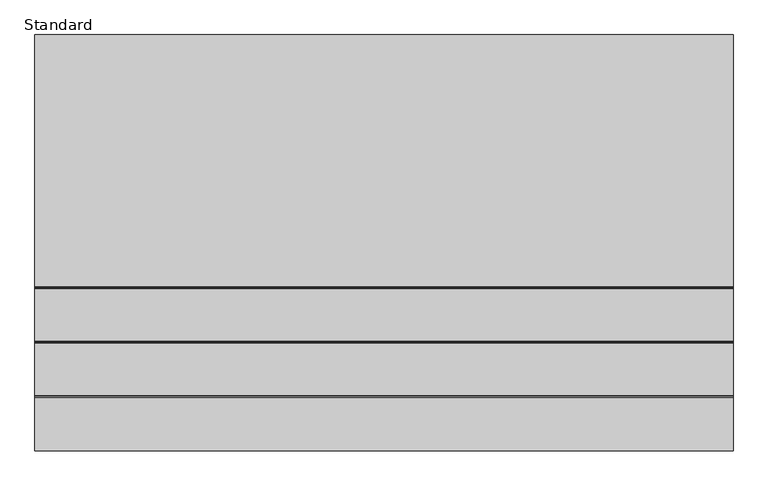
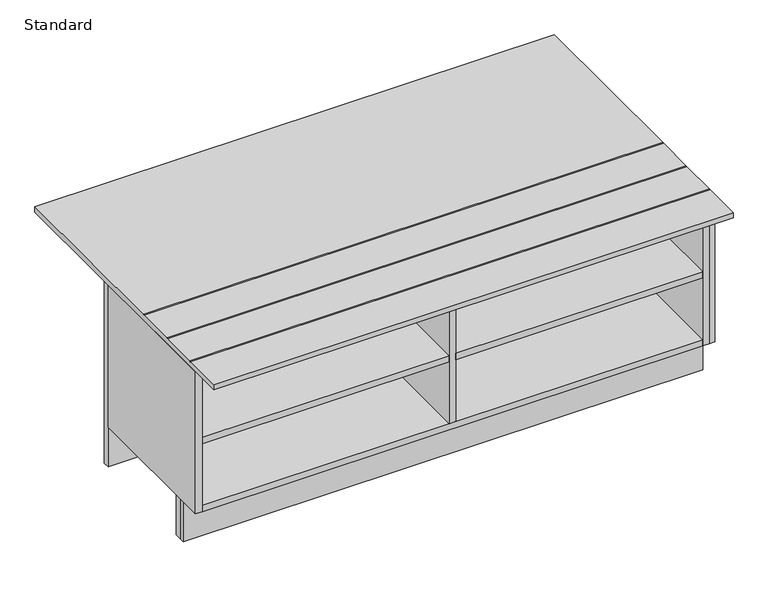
"""IFC4 building model written with IfcOpenShell, lengths in millimetres: furniture geometry, X_Locker-Duracube-Player Shoe Box : Standard."""

import ifcopenshell
import ifcopenshell.guid

model = None  # the IFC model being written
_history = None  # IfcOwnerHistory: only IFC2X3 demands one
_inside = {}  # id of a spatial element -> (the spatial element, [elements in it])
_under = {}  # id of a project, library or spatial element -> (it, [spatial elements below it])
_declared = {}  # id of a project -> (the project, [libraries it declares])
_typed = {}  # id of a type object -> (the type object, [elements of that type])
_made_of = {}  # id of a material, layer set ... -> (it, [elements and type objects made of it])


def new_model(schema):
    """Start an empty IFC model of exactly this schema.

    Asked for "IFC4X3", IfcOpenShell would pick the latest addendum, in which some entities
    have other attributes; the version numbers below select the first issue.
    IFC2X3 requires an IfcOwnerHistory on every rooted entity: one is made here for all.
    """
    global model, _history
    if schema == "IFC4X3":
        model = ifcopenshell.file(schema_version=(4, 3, 0, 0))
    else:
        model = ifcopenshell.file(schema=schema)
    _inside.clear()
    _under.clear()
    _declared.clear()
    _typed.clear()
    _made_of.clear()
    _history = None
    if model.schema == "IFC2X3":
        org = make("IfcOrganization", Name="unknown")
        user = make(
            "IfcPersonAndOrganization",
            ThePerson=make("IfcPerson", FamilyName="unknown"),
            TheOrganization=org,
        )
        app = make(
            "IfcApplication",
            ApplicationDeveloper=org,
            Version="unknown",
            ApplicationFullName="unknown",
            ApplicationIdentifier="unknown",
        )
        _history = make(
            "IfcOwnerHistory",
            OwningUser=user,
            OwningApplication=app,
            ChangeAction="ADDED",
            CreationDate=0,
        )
    return model


def make(cls, **values):
    """One entity of the class cls with the attributes given. An attribute that is None is left unset."""
    return model.create_entity(
        cls, **{name: value for name, value in values.items() if value is not None}
    )


def rooted(cls, **values):
    """An entity with a GlobalId (a new one), such as an element, a storey or a relation."""
    return make(cls, GlobalId=ifcopenshell.guid.new(), OwnerHistory=_history, **values)


def si_unit(unit_type, name, prefix=None):
    """IfcSIUnit, for example si_unit("LENGTHUNIT", "METRE", prefix="MILLI")."""
    return make("IfcSIUnit", UnitType=unit_type, Prefix=prefix, Name=name)


def assignment(units):
    """IfcUnitAssignment: the units of a project."""
    return None if units is None else make("IfcUnitAssignment", Units=units)


def point(xyz):
    """IfcCartesianPoint."""
    return None if xyz is None else make("IfcCartesianPoint", Coordinates=xyz)


def direction(xyz):
    """IfcDirection."""
    return None if xyz is None else make("IfcDirection", DirectionRatios=xyz)


def frame(location, z_axis=None, x_axis=None):
    """IfcAxis2Placement3D, a coordinate frame: its origin and axes. An axis left out is left unset."""
    return make(
        "IfcAxis2Placement3D",
        Location=point(location),
        Axis=direction(z_axis),
        RefDirection=direction(x_axis),
    )


def origin():
    """The frame at (0, 0, 0) with its axes left unset."""
    return frame((0.0, 0.0, 0.0))


def origin_with_axes():
    """The frame at (0, 0, 0) with the z axis (0, 0, 1) and the x axis (1, 0, 0) written out."""
    return frame((0.0, 0.0, 0.0), z_axis=(0.0, 0.0, 1.0), x_axis=(1.0, 0.0, 0.0))


def place(relative_to, where):
    """IfcLocalPlacement: puts the frame where relative to a parent placement (None: the world)."""
    return make(
        "IfcLocalPlacement", PlacementRelTo=relative_to, RelativePlacement=where
    )


def context(
    kind, dimensions, precision=None, world=None, true_north=None, identifier=None
):
    """IfcGeometricRepresentationContext, for example the 3D "Model" context."""
    return make(
        "IfcGeometricRepresentationContext",
        ContextIdentifier=identifier,
        ContextType=kind,
        CoordinateSpaceDimension=dimensions,
        Precision=precision,
        WorldCoordinateSystem=world,
        TrueNorth=true_north,
    )


def project(units=None, contexts=None):
    """IfcProject with its units and contexts."""
    return rooted(
        "IfcProject",
        Name="project",
        RepresentationContexts=contexts,
        UnitsInContext=assignment(units),
    )


def spatial(cls, under=None, at=None, **own):
    """A site, building, storey or space (cls), placed at a placement, below another one or the project."""
    s = rooted(cls, ObjectPlacement=at, **own)
    if under is not None:
        _under.setdefault(under.id(), (under, []))[1].append(s)
    return s


def polyline(points):
    """IfcPolyline through the points."""
    return make("IfcPolyline", Points=[point(p) for p in points])


def outline(outer, holes=None, kind="AREA"):
    """IfcArbitraryClosedProfileDef: a profile drawn as a closed curve; with holes, ...WithVoids."""
    if holes is None:
        return make("IfcArbitraryClosedProfileDef", ProfileType=kind, OuterCurve=outer)
    return make(
        "IfcArbitraryProfileDefWithVoids",
        ProfileType=kind,
        OuterCurve=outer,
        InnerCurves=holes,
    )


def extrude(swept, where, along, depth):
    """IfcExtrudedAreaSolid: the profile swept, set in the frame where, extruded along a direction by depth."""
    return make(
        "IfcExtrudedAreaSolid",
        SweptArea=swept,
        Position=where,
        ExtrudedDirection=direction(along),
        Depth=depth,
    )


def shape(context_of_items, identifier, shape_type, items):
    """IfcShapeRepresentation: the items that make up one representation, for example the "Body"."""
    return make(
        "IfcShapeRepresentation",
        ContextOfItems=context_of_items,
        RepresentationIdentifier=identifier,
        RepresentationType=shape_type,
        Items=items,
    )


def source(mapping_origin, context_of_items, identifier, shape_type, items):
    """IfcRepresentationMap: a shape defined once, which mapped items show again and again."""
    return make(
        "IfcRepresentationMap",
        MappingOrigin=mapping_origin,
        MappedRepresentation=shape(context_of_items, identifier, shape_type, items),
    )


def transform(
    local_origin,
    x_axis=None,
    y_axis=None,
    z_axis=None,
    scale=None,
    scale2=None,
    scale3=None,
    uniform=True,
):
    """IfcCartesianTransformationOperator3D, or its non-uniform kind. x_axis, y_axis, z_axis: its Axis1, 2, 3."""
    if uniform:
        return make(
            "IfcCartesianTransformationOperator3D",
            Axis1=direction(x_axis),
            Axis2=direction(y_axis),
            LocalOrigin=point(local_origin),
            Scale=scale,
            Axis3=direction(z_axis),
        )
    return make(
        "IfcCartesianTransformationOperator3DnonUniform",
        Axis1=direction(x_axis),
        Axis2=direction(y_axis),
        LocalOrigin=point(local_origin),
        Scale=scale,
        Axis3=direction(z_axis),
        Scale2=scale2,
        Scale3=scale3,
    )


def mapped(mapping_source, mapping_target):
    """IfcMappedItem: shows the shape of a source again, moved by a transform."""
    return make(
        "IfcMappedItem", MappingSource=mapping_source, MappingTarget=mapping_target
    )


def made_of(thing, what):
    """Note that an element or type object is made of a material, layer set ...; save() writes the relation."""
    if what is not None:
        _made_of.setdefault(what.id(), (what, []))[1].append(thing)
    return thing


def element(
    cls,
    number,
    at=None,
    inside=None,
    cuts=None,
    type_object=None,
    material=None,
    context=None,
    identifier="Body",
    shape_type=None,
    held_by="IfcProductDefinitionShape",
    body=None,
    shapes=None,
    **own,
):
    """One element of the class cls, such as IfcWall. Its Tag is "e" and its number.

    at: its placement. inside: the storey or other place that contains it. cuts: it is an
    opening in that element (IfcRelVoidsElement). A single representation is given by context,
    identifier, shape_type and body (its items); several are given by shapes. held_by: the class
    of the entity that holds the representations. save() writes the other relations.
    """
    e = rooted(cls, Tag="e%d" % number, ObjectPlacement=at, **own)
    if body is not None:
        shapes = [shape(context, identifier, shape_type, body)]
    if shapes is not None:
        e.Representation = make(held_by, Representations=shapes)
    if inside is not None:
        _inside.setdefault(inside.id(), (inside, []))[1].append(e)
    if cuts is not None:
        rooted(
            "IfcRelVoidsElement", RelatingBuildingElement=cuts, RelatedOpeningElement=e
        )
    if type_object is not None:
        _typed.setdefault(type_object.id(), (type_object, []))[1].append(e)
    return made_of(e, material)


def aggregate(whole, parts):
    """IfcRelAggregates: a whole, such as a stair, and the parts it consists of."""
    return rooted("IfcRelAggregates", RelatingObject=whole, RelatedObjects=parts)


def save(model, path):
    """Write the relations noted so far, then the file.

    IfcRelAggregates (storeys below a building ...), IfcRelContainedInSpatialStructure (elements
    in a storey), IfcRelDefinesByType, IfcRelAssociatesMaterial and IfcRelDeclares: one each for
    every whole, place, type object, material and project.
    """
    for whole, parts in _under.values():
        aggregate(whole, parts)
    for where, things in _inside.values():
        rooted(
            "IfcRelContainedInSpatialStructure",
            RelatedElements=things,
            RelatingStructure=where,
        )
    for kind, things in _typed.values():
        rooted("IfcRelDefinesByType", RelatedObjects=things, RelatingType=kind)
    for what, things in _made_of.values():
        rooted("IfcRelAssociatesMaterial", RelatedObjects=things, RelatingMaterial=what)
    for by, libraries in _declared.values():
        rooted("IfcRelDeclares", RelatingContext=by, RelatedDefinitions=libraries)
    model.write(path)


def standard_172709b4(model_context):
    return source(origin(), model_context, "Body", "SweptSolid", [
        extrude(outline(polyline([(-57.5, 457.0), (-792.5, 457.0), (-792.5, 470.0), (-698.5, 470.0), (-696.5, 468.0), (-694.5, 470.0), (-602.5, 470.0), (-600.5, 468.0), (-598.5, 470.0), (-506.5, 470.0), (-504.5, 468.0), (-502.5, 470.0), (-57.5, 470.0), (-57.5, 457.0)])), frame((-571.5496736, 0.0, 0.0), z_axis=(1.0, 0.0, 0.0), x_axis=(0.0, 1.0, 0.0)), (0.0, 0.0, 1.0), 1232.5),
        extrude(outline(polyline([(631.9503264, -358.5), (631.9503264, -717.5), (46.2003264, -717.5), (46.2003264, -358.5), (631.9503264, -358.5)])), frame((0.0, 0.0, 270.5), z_axis=(0.0, 0.0, 1.0), x_axis=(1.0, 0.0, 0.0)), (0.0, 0.0, 1.0), 16.0),
        extrude(outline(polyline([(46.2003264, -358.5), (46.2003264, -717.5), (30.2003264, -717.5), (30.2003264, -358.5), (46.2003264, -358.5)])), frame((0.0, 0.0, 116.0), z_axis=(0.0, 0.0, 1.0), x_axis=(1.0, 0.0, 0.0)), (0.0, 0.0, 1.0), 325.0),
        extrude(outline(polyline([(647.9503264, -358.5), (647.9503264, -717.5), (631.9503264, -717.5), (631.9503264, -358.5), (647.9503264, -358.5)])), frame((0.0, 0.0, 100.0), z_axis=(0.0, 0.0, 1.0), x_axis=(1.0, 0.0, 0.0)), (0.0, 0.0, 1.0), 357.0),
        extrude(outline(polyline([(-555.5496736, -358.5), (-555.5496736, -717.5), (-571.5496736, -717.5), (-571.5496736, -358.5), (-555.5496736, -358.5)])), frame((0.0, 0.0, 100.0), z_axis=(0.0, 0.0, 1.0), x_axis=(1.0, 0.0, 0.0)), (0.0, 0.0, 1.0), 357.0),
        extrude(outline(polyline([(30.2003264, -358.5), (30.2003264, -717.5), (-555.5496736, -717.5), (-555.5496736, -358.5), (30.2003264, -358.5)])), frame((0.0, 0.0, 270.5), z_axis=(0.0, 0.0, 1.0), x_axis=(1.0, 0.0, 0.0)), (0.0, 0.0, 1.0), 16.0),
        extrude(outline(polyline([(631.9503264, -358.5), (631.9503264, -717.5), (-555.5496736, -717.5), (-555.5496736, -358.5), (631.9503264, -358.5)])), frame((0.0, 0.0, 441.0), z_axis=(0.0, 0.0, 1.0), x_axis=(1.0, 0.0, 0.0)), (0.0, 0.0, 1.0), 16.0),
        extrude(outline(polyline([(631.9503264, -358.5), (631.9503264, -717.5), (-555.5496736, -717.5), (-555.5496736, -358.5), (631.9503264, -358.5)])), frame((0.0, 0.0, 100.0), z_axis=(0.0, 0.0, 1.0), x_axis=(1.0, 0.0, 0.0)), (0.0, 0.0, 1.0), 16.0),
        extrude(outline(polyline([(-717.5, 457.0), (-342.5, 457.0), (-342.5, 0.0), (-654.5, 0.0), (-654.5, 100.0), (-717.5, 100.0), (-717.5, 457.0)])), frame((647.9503264, 0.0, 0.0), z_axis=(1.0, 0.0, 0.0), x_axis=(0.0, 1.0, 0.0)), (0.0, 0.0, 1.0), 13.0),
        extrude(outline(polyline([(647.9503264, -342.5), (647.9503264, -358.5), (-571.5496736, -358.5), (-571.5496736, -342.5), (647.9503264, -342.5)])), origin_with_axes(), (0.0, 0.0, 1.0), 457.0),
        extrude(outline(polyline([(647.9503264, -638.5), (647.9503264, -654.5), (-571.5496736, -654.5), (-571.5496736, -638.5), (647.9503264, -638.5)])), origin_with_axes(), (0.0, 0.0, 1.0), 100.0),
        extrude(outline(polyline([(660.9503264, -654.5), (660.9503264, -667.5), (-571.5496736, -667.5), (-571.5496736, -654.5), (660.9503264, -654.5)])), origin_with_axes(), (0.0, 0.0, 1.0), 100.0),
    ])


if __name__ == "__main__":
    model = new_model("IFC4")
    model_context = context("Model", 3, world=origin())
    ifc_project = project(units=[si_unit("LENGTHUNIT", "METRE", prefix="MILLI")], contexts=[model_context])
    site = spatial("IfcSite", under=ifc_project)
    building = spatial("IfcBuilding", under=site)
    placement = place(None, origin())
    standard_shape = standard_172709b4(model_context)
    element("IfcFurniture", 1, ObjectType="X_Locker-Duracube-Player Shoe Box : Standard", at=placement, inside=building, context=model_context, shape_type="MappedRepresentation", body=[
        mapped(standard_shape, transform((0.0, 0.0, 0.0), x_axis=(1.0, 0.0, 0.0), y_axis=(0.0, 1.0, 0.0), z_axis=(0.0, 0.0, 1.0))),
    ])
    save(model, "model.ifc")
